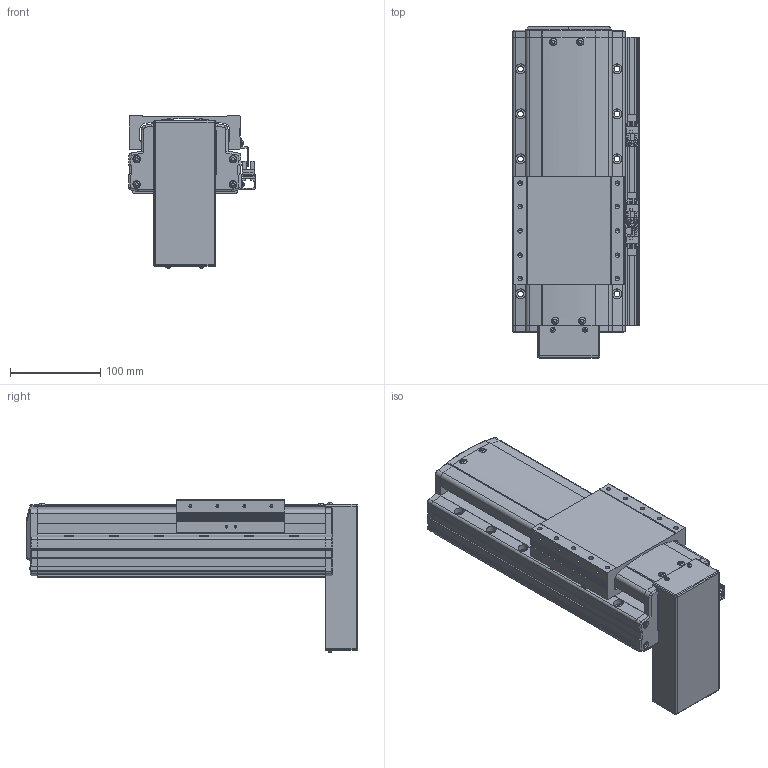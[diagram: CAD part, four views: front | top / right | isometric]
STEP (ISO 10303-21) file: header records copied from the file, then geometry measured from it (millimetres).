
FILE_DESCRIPTION(('STEP AP214'),'1');
FILE_NAME('Z:/Web/3D/PSA125/STP/PSA125-100 (3D)/PSA125ㅁㅁ-100PB+3SR.stp','2014-06-20T08:41:21',(' '),(' '),'Spatial InterOp 3D',' ',' ');
FILE_SCHEMA(('automotive_design'));
Length unit declared in the file: millimetre
Products named in the file (47): 스크루 : Round - M4.0 x 10.0; RRCV-PA120; SLIDE; BASE; FRCV-PA120-1(기준 뿔 제거); RR1500; 스크루 : Round - M4.0 x 6.0; 너트 : Square - M10.0 x 220.7419; 1; 2; 파트105; 스크루 : Round - M3.0 x 6.0; EE-SX674; SBK-SX674-352; M3.0 x 6.0; SRL-16x17-380L; SGD-PA95; 스크루 : Round - M3.0 x 8.0
Bounding box: 141 x 368.6 x 169.06 mm (x, y, z)
Volume: 3372685.2 mm3; surface area: 398441.5 mm2
Topology: 47 solids, 47 shells, 2529 faces, 6687 edges, 4299 vertices
Faces by surface type: plane 1483, cylinder 668, cone 242, sphere 72, torus 33, bspline 31
Entity records: 100788 total; most frequent: CARTESIAN_POINT 16227, DIRECTION 13470, ORIENTED_EDGE 13150, EDGE_CURVE 6575, AXIS2_PLACEMENT_3D 4510, LINE 4450, VECTOR 4450, VERTEX_POINT 4299
